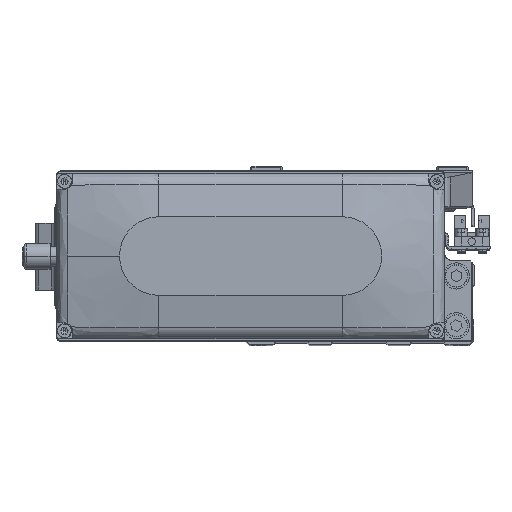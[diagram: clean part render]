
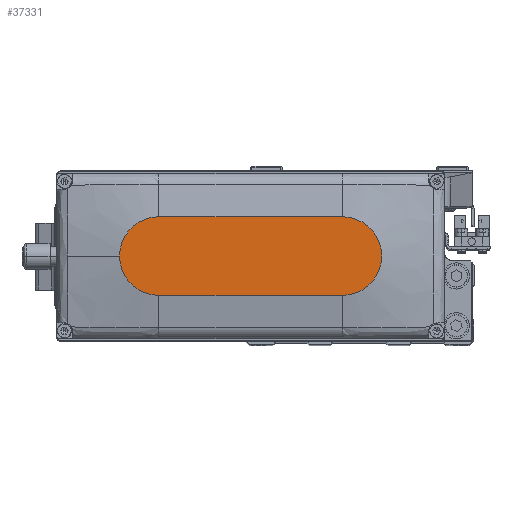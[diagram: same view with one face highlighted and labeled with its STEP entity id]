
A CAD part, top view. The second image highlights one B-rep face of the part: STEP entity #37331.
In plain terms, the highlighted planar face has unit normal (0, 0, 1).
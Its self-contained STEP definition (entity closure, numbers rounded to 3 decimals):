
#731 = ORIENTED_EDGE ( 'NONE', *, *, #21110, .T. ) ;
#733 = VERTEX_POINT ( 'NONE', #4334 ) ;
#2222 = CARTESIAN_POINT ( 'NONE',  ( 50., 0., 35. ) ) ;
#4334 = CARTESIAN_POINT ( 'NONE',  ( -35., 15., 35. ) ) ;
#5306 = CARTESIAN_POINT ( 'NONE',  ( 35., 0., 35. ) ) ;
#7370 = VERTEX_POINT ( 'NONE', #2222 ) ;
#7545 = CARTESIAN_POINT ( 'NONE',  ( 35., 15., 35. ) ) ;
#9201 = DIRECTION ( 'NONE',  ( 1., 0., 0. ) ) ;
#9822 = DIRECTION ( 'NONE',  ( 1., 0., 0. ) ) ;
#11286 = CARTESIAN_POINT ( 'NONE',  ( 0., 0., 35. ) ) ;
#11760 = VECTOR ( 'NONE', #42966, 1000. ) ;
#12011 = VERTEX_POINT ( 'NONE', #19501 ) ;
#12079 = EDGE_CURVE ( 'NONE', #7370, #33871, #17131, .T. ) ;
#12303 = CIRCLE ( 'NONE', #38721, 15. ) ;
#12576 = VECTOR ( 'NONE', #9822, 1000. ) ;
#12658 = DIRECTION ( 'NONE',  ( 0., 0., 1. ) ) ;
#14119 = LINE ( 'NONE', #28548, #11760 ) ;
#16095 = VERTEX_POINT ( 'NONE', #43704 ) ;
#17131 = CIRCLE ( 'NONE', #43566, 15. ) ;
#19501 = CARTESIAN_POINT ( 'NONE',  ( 35., -15., 35. ) ) ;
#19711 = DIRECTION ( 'NONE',  ( 0., 0., 1. ) ) ;
#21110 = EDGE_CURVE ( 'NONE', #16095, #12011, #27807, .T. ) ;
#24420 = ORIENTED_EDGE ( 'NONE', *, *, #42232, .T. ) ;
#24540 = AXIS2_PLACEMENT_3D ( 'NONE', #27186, #41606, #9201 ) ;
#25707 = DIRECTION ( 'NONE',  ( 0., 0., 1. ) ) ;
#27074 = DIRECTION ( 'NONE',  ( 1., 0., 0. ) ) ;
#27186 = CARTESIAN_POINT ( 'NONE',  ( 35., 0., 35. ) ) ;
#27807 = LINE ( 'NONE', #42221, #12576 ) ;
#28548 = CARTESIAN_POINT ( 'NONE',  ( -35., 15., 35. ) ) ;
#29099 = ORIENTED_EDGE ( 'NONE', *, *, #42821, .T. ) ;
#29274 = FACE_OUTER_BOUND ( 'NONE', #41779, .T. ) ;
#29849 = ORIENTED_EDGE ( 'NONE', *, *, #12079, .T. ) ;
#31847 = AXIS2_PLACEMENT_3D ( 'NONE', #11286, #25707, #40128 ) ;
#33871 = VERTEX_POINT ( 'NONE', #7545 ) ;
#34126 = DIRECTION ( 'NONE',  ( 1., 0., 0. ) ) ;
#34272 = ORIENTED_EDGE ( 'NONE', *, *, #38516, .T. ) ;
#37331 = ADVANCED_FACE ( 'NONE', ( #29274 ), #43683, .T. ) ;
#38516 = EDGE_CURVE ( 'NONE', #733, #16095, #12303, .T. ) ;
#38721 = AXIS2_PLACEMENT_3D ( 'NONE', #45046, #12658, #27074 ) ;
#40128 = DIRECTION ( 'NONE',  ( 1., 0., 0. ) ) ;
#41606 = DIRECTION ( 'NONE',  ( 0., 0., 1. ) ) ;
#41779 = EDGE_LOOP ( 'NONE', ( #29099, #34272, #731, #24420, #29849 ) ) ;
#42221 = CARTESIAN_POINT ( 'NONE',  ( -35., -15., 35. ) ) ;
#42232 = EDGE_CURVE ( 'NONE', #12011, #7370, #44950, .T. ) ;
#42821 = EDGE_CURVE ( 'NONE', #33871, #733, #14119, .T. ) ;
#42966 = DIRECTION ( 'NONE',  ( -1., 0., 0. ) ) ;
#43566 = AXIS2_PLACEMENT_3D ( 'NONE', #5306, #19711, #34126 ) ;
#43683 = PLANE ( 'NONE',  #31847 ) ;
#43704 = CARTESIAN_POINT ( 'NONE',  ( -35., -15., 35. ) ) ;
#44950 = CIRCLE ( 'NONE', #24540, 15. ) ;
#45046 = CARTESIAN_POINT ( 'NONE',  ( -35., 0., 35. ) ) ;
